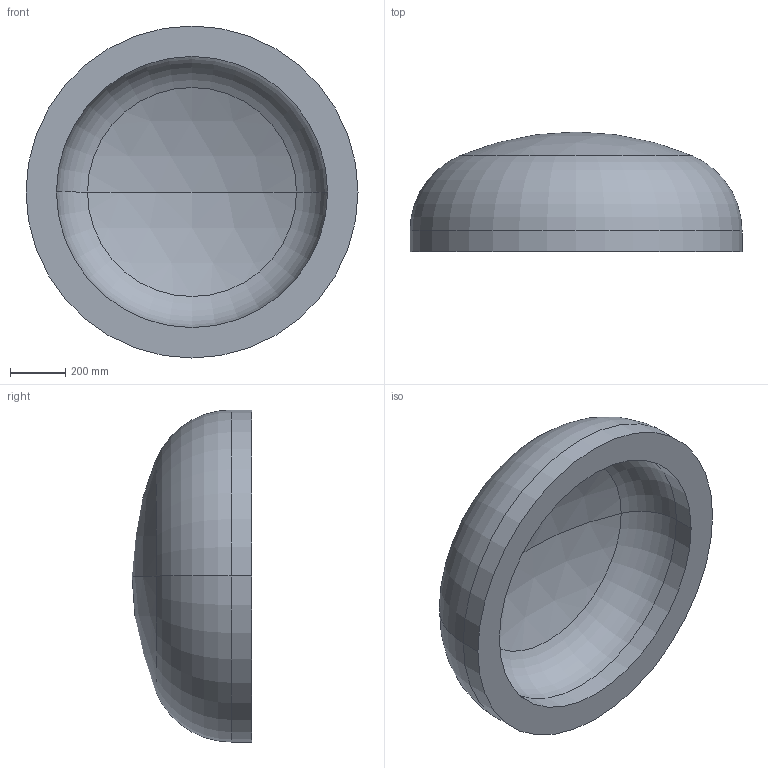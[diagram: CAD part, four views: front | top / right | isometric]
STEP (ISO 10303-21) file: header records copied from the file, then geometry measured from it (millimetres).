
FILE_DESCRIPTION (( 'STEP AP203' ), '1' );
FILE_NAME ('DIN 28013 Korbbogenform_-_Boden DIN 28013 - 1200 x 75 - I - s=110.step', '2016-07-01T09:39:04', ( '' ), ( '' ), 'SwSTEP 2.0', 'SolidWorks 2013', '' );
FILE_SCHEMA (( 'CONFIG_CONTROL_DESIGN' ));
Length unit declared in the file: millimetre
Products named in the file (1): DIN 28013 Korbbogenform_-_Boden DIN 28013 - 1200 x 75 - I - s=110
Bounding box: 1200 x 432.54 x 1200 mm (x, y, z)
Volume: 182010356.7 mm3; surface area: 3711297.8 mm2
Topology: 1 solids, 1 shells, 13 faces, 24 edges, 14 vertices
Faces by surface type: torus 4, cylinder 4, sphere 4, plane 1
Entity records: 407 total; most frequent: DIRECTION 72, CARTESIAN_POINT 52, ORIENTED_EDGE 48, AXIS2_PLACEMENT_3D 34, EDGE_CURVE 24, CIRCLE 20, VERTEX_POINT 14, EDGE_LOOP 14
